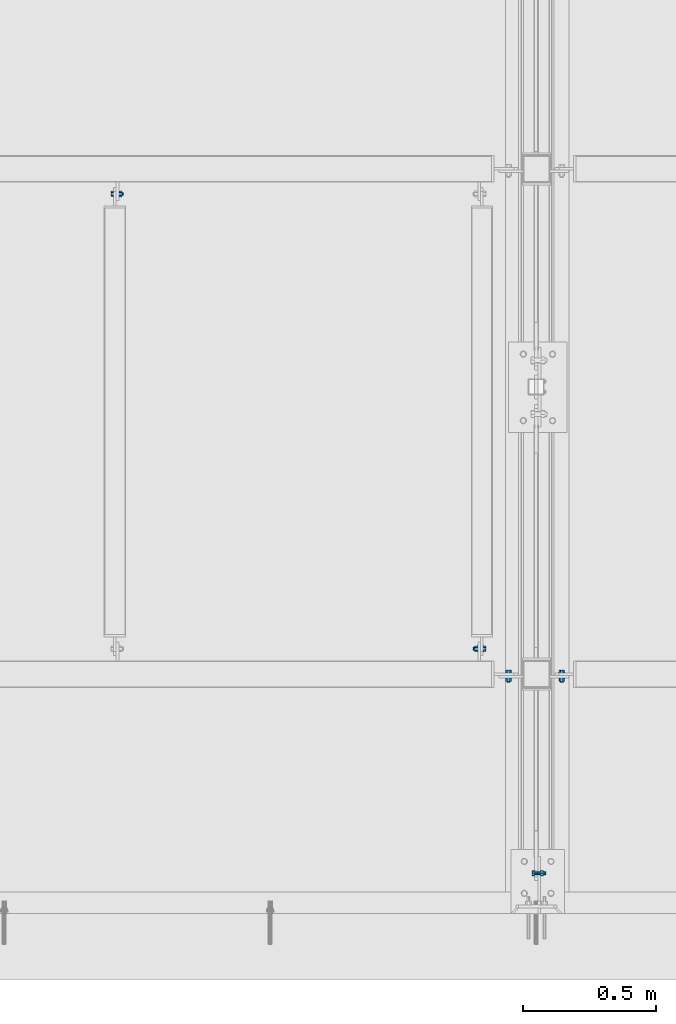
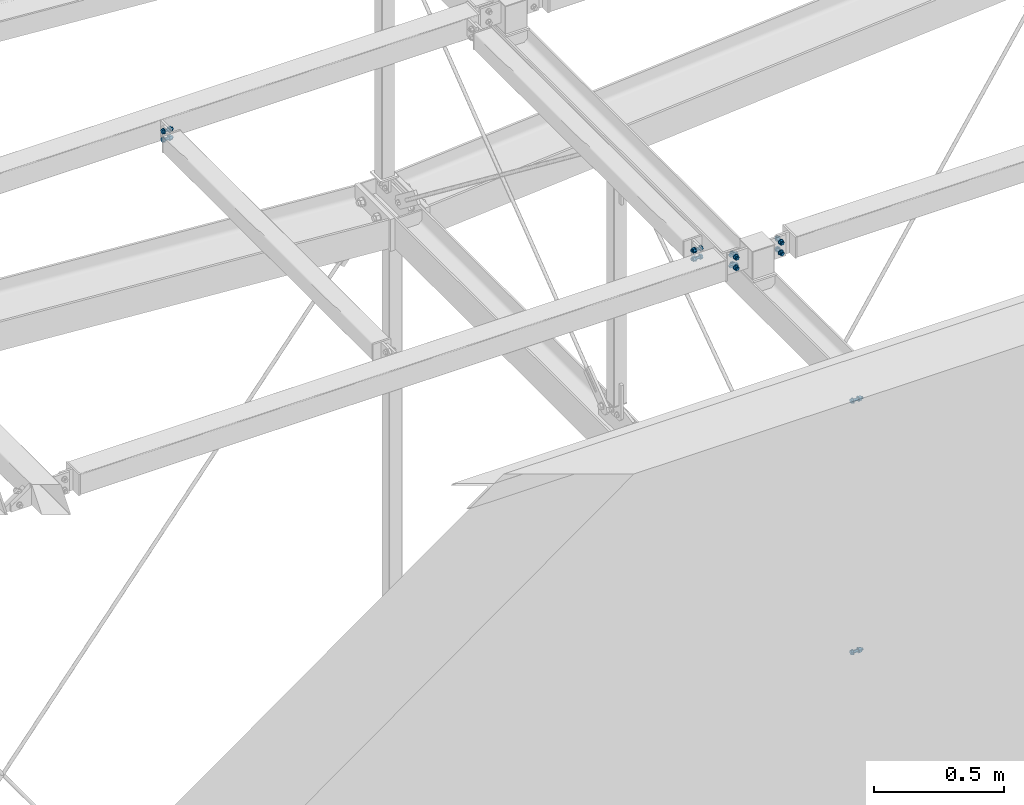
# One storey, part 238 of 271: 6 mechanical fasteners, 6 elements without a shape of their own.
"""IFC2X3 building model written with IfcOpenShell, lengths in millimetres."""

from ifc_helpers import new_model, si_unit, frame, frame_2d, origin_with_axes, origin_2d_with_axis, place, context, subcontext, project, spatial, polyline, circle_curve, parameter, trimmed, segment, composite_curve, circle, outline, extrude, source, transform, mapped, material, type_object, element, aggregate, save


model = new_model("IFC2X3")

# Units and contexts
model_context = context("Model", 3, precision=1e-05, world=origin_with_axes())
body_context = subcontext(model_context, "Body", "Model", "MODEL_VIEW")
ifc_project = project(units=[si_unit("LENGTHUNIT", "METRE", prefix="MILLI"), si_unit("AREAUNIT", "SQUARE_METRE"), si_unit("VOLUMEUNIT", "CUBIC_METRE"), si_unit("MASSUNIT", "GRAM", prefix="KILO"), si_unit("TIMEUNIT", "SECOND"), si_unit("PLANEANGLEUNIT", "RADIAN"), si_unit("SOLIDANGLEUNIT", "STERADIAN"), si_unit("THERMODYNAMICTEMPERATUREUNIT", "DEGREE_CELSIUS"), si_unit("LUMINOUSINTENSITYUNIT", "LUMEN")], contexts=[model_context])

# Site, building, storey
site_placement = place(None, origin_with_axes())
site = spatial("IfcSite", under=ifc_project, at=site_placement, Name="Undefined", CompositionType="ELEMENT")
building_placement = place(site_placement, origin_with_axes())
building = spatial("IfcBuilding", under=site, at=building_placement, Name="Undefined", CompositionType="ELEMENT")
storey_placement = place(building_placement, origin_with_axes())
storey = spatial("IfcBuildingStorey", under=building, at=storey_placement, Name="Undefined", CompositionType="ELEMENT", Elevation=0.0)

# Assembly, mechanical fastener
assembly_1_placement = place(storey_placement, origin_with_axes())
assembly_1 = element("IfcElementAssembly", 1, at=assembly_1_placement, inside=storey, AssemblyPlace="NOTDEFINED", PredefinedType="RIGID_FRAME")
ifc_material = material(Name="Undefined")
mechanical_fastener_type = type_object("IfcMechanicalFastenerType", Name="Bolt assembly")
shared_shape_1 = source(origin_with_axes(), body_context, "Body", "SweptSolid", [
    extrude(circle(Radius=6.5, at=origin_2d_with_axis()), frame((0.0, -5.1, 0.0), z_axis=(0.0, 1.0, 0.0), x_axis=(1.0, 0.0, 0.0)), (0.0, 0.0, 1.0), 10.1),
    extrude(circle(Radius=6.5, at=origin_2d_with_axis()), frame((0.0, -16.9, 0.0), z_axis=(0.0, 1.0, 0.0), x_axis=(1.0, 0.0, 0.0)), (0.0, 0.0, 1.0), 12.0),
    extrude(outline(polyline([(10.39230484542, 0.0), (5.19615242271, 9.00000000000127), (-5.19615242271, 9.00000000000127), (-10.39230484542, 0.0), (-5.19615242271, -9.00000000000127), (5.19615242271, -9.00000000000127), (10.39230484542, 0.0)])), frame((0.0, -27.0, 0.0), z_axis=(0.0, 1.0, 0.0), x_axis=(1.0, 0.0, 0.0)), (0.0, 0.0, 1.0), 7.5),
    extrude(circle(Radius=6.0, at=origin_2d_with_axis()), frame((0.0, -19.5, 0.0), z_axis=(0.0, 1.0, 0.0), x_axis=(1.0, 0.0, 0.0)), (0.0, 0.0, 1.0), 45.0),
    extrude(circle(Radius=12.0, at=origin_2d_with_axis()), frame((0.0, -19.5, 0.0), z_axis=(0.0, 1.0, 0.0), x_axis=(1.0, 0.0, 0.0)), (0.0, 0.0, 1.0), 2.5),
    extrude(circle(Radius=12.0, at=origin_2d_with_axis()), frame((0.0, 5.00000000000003, 0.0), z_axis=(0.0, 1.0, 0.0), x_axis=(1.0, 0.0, 0.0)), (0.0, 0.0, 1.0), 2.5),
    extrude(outline(polyline([(10.96965511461, 0.0), (5.484827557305, 9.50000000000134), (-5.484827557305, 9.50000000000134), (-10.96965511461, 0.0), (-5.484827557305, -9.50000000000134), (5.484827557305, -9.50000000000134), (10.96965511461, 0.0)])), frame((0.0, 7.50000000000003, 0.0), z_axis=(0.0, 1.0, 0.0), x_axis=(1.0, 0.0, 0.0)), (0.0, 0.0, 1.0), 10.0),
])
mechanical_fastener_1_placement = place(assembly_1_placement, frame((6358.37568736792, 150.779592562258, 18734.3586910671), z_axis=(0.0, 0.570474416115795, -0.821315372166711), x_axis=(0.0, 0.821315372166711, 0.570474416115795)))
mechanical_fastener_1 = element("IfcMechanicalFastener", 2, at=mechanical_fastener_1_placement, type_object=mechanical_fastener_type, material=ifc_material, Name="Bolt assembly", NominalDiameter=12.0, NominalLength=45.0, context=body_context, shape_type="MappedRepresentation", body=[
    mapped(shared_shape_1, transform((0.0, 0.0, 0.0))),
])
aggregate(assembly_1, [mechanical_fastener_1])

assembly_2_placement = place(storey_placement, origin_with_axes())
assembly_2 = element("IfcElementAssembly", 3, at=assembly_2_placement, inside=storey, AssemblyPlace="NOTDEFINED", PredefinedType="RIGID_FRAME")
mechanical_fastener_2_placement = place(assembly_2_placement, frame((6358.37568736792, 150.419669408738, 19914.5913071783), z_axis=(0.0, -0.570474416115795, -0.821315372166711), x_axis=(0.0, 0.821315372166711, -0.570474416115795)))
mechanical_fastener_2 = element("IfcMechanicalFastener", 4, at=mechanical_fastener_2_placement, type_object=mechanical_fastener_type, material=ifc_material, Name="Bolt assembly", NominalDiameter=12.0, NominalLength=45.0, context=body_context, shape_type="MappedRepresentation", body=[
    mapped(shared_shape_1, transform((0.0, 0.0, 0.0))),
])
aggregate(assembly_2, [mechanical_fastener_2])

assembly_3_placement = place(storey_placement, origin_with_axes())
assembly_3 = element("IfcElementAssembly", 5, at=assembly_3_placement, inside=storey, AssemblyPlace="NOTDEFINED", PredefinedType="RIGID_FRAME")
shared_shape_2 = source(origin_with_axes(), body_context, "Body", "SweptSolid", [
    extrude(circle(Radius=6.5, at=origin_2d_with_axis()), frame((0.0, -5.1, 0.0), z_axis=(0.0, 1.0, 0.0), x_axis=(1.0, 0.0, 0.0)), (0.0, 0.0, 1.0), 10.1),
    extrude(circle(Radius=6.5, at=origin_2d_with_axis()), frame((0.0, -14.9000000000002, 0.0), z_axis=(0.0, 1.0, 0.0), x_axis=(1.0, 0.0, 0.0)), (0.0, 0.0, 1.0), 10.0),
    extrude(outline(polyline([(10.39230484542, 0.0), (5.19615242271, 9.00000000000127), (-5.19615242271, 9.00000000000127), (-10.39230484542, 0.0), (-5.19615242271, -9.00000000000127), (5.19615242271, -9.00000000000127), (10.39230484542, 0.0)])), frame((0.0, -25.0000000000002, 0.0), z_axis=(0.0, 1.0, 0.0), x_axis=(1.0, 0.0, 0.0)), (0.0, 0.0, 1.0), 7.5),
    extrude(circle(Radius=6.0, at=origin_2d_with_axis()), frame((0.0, -17.5000000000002, 0.0), z_axis=(0.0, 1.0, 0.0), x_axis=(1.0, 0.0, 0.0)), (0.0, 0.0, 1.0), 40.0),
    extrude(circle(Radius=12.0, at=origin_2d_with_axis()), frame((0.0, -17.5000000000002, 0.0), z_axis=(0.0, 1.0, 0.0), x_axis=(1.0, 0.0, 0.0)), (0.0, 0.0, 1.0), 2.5),
    extrude(circle(Radius=12.0, at=origin_2d_with_axis()), frame((0.0, 5.00000000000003, 0.0), z_axis=(0.0, 1.0, 0.0), x_axis=(1.0, 0.0, 0.0)), (0.0, 0.0, 1.0), 2.5),
    extrude(outline(polyline([(10.96965511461, 0.0), (5.484827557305, 9.50000000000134), (-5.484827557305, 9.50000000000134), (-10.96965511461, 0.0), (-5.484827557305, -9.50000000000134), (5.484827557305, -9.50000000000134), (10.96965511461, 0.0)])), frame((0.0, 7.50000000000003, 0.0), z_axis=(0.0, 1.0, 0.0), x_axis=(1.0, 0.0, 0.0)), (0.0, 0.0, 1.0), 10.0),
])
mechanical_fastener_3_placement = place(assembly_3_placement, frame((6133.37568709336, 994.32498425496, 20164.3499999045), z_axis=(0.0, 0.0, 1.0), x_axis=(0.0, 1.0, 0.0)))
mechanical_fastener_3 = element("IfcMechanicalFastener", 6, at=mechanical_fastener_3_placement, type_object=mechanical_fastener_type, material=ifc_material, Name="Bolt assembly", NominalDiameter=12.0, NominalLength=40.0, context=body_context, shape_type="MappedRepresentation", body=[
    mapped(shared_shape_2, transform((0.0, 0.0, -20.0))),
    mapped(shared_shape_2, transform((0.0, 0.0, 20.0))),
])
aggregate(assembly_3, [mechanical_fastener_3])

assembly_4_placement = place(storey_placement, origin_with_axes())
assembly_4 = element("IfcElementAssembly", 7, at=assembly_4_placement, inside=storey, AssemblyPlace="NOTDEFINED", PredefinedType="RIGID_FRAME")
mechanical_fastener_4_placement = place(assembly_4_placement, frame((4773.37568709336, 2704.32498425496, 20164.3499999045), z_axis=(0.0, 0.0, 1.0), x_axis=(0.0, -1.0, 0.0)))
mechanical_fastener_4 = element("IfcMechanicalFastener", 8, at=mechanical_fastener_4_placement, type_object=mechanical_fastener_type, material=ifc_material, Name="Bolt assembly", NominalDiameter=12.0, NominalLength=40.0, context=body_context, shape_type="MappedRepresentation", body=[
    mapped(shared_shape_2, transform((0.0, 0.0, -20.0))),
    mapped(shared_shape_2, transform((0.0, 0.0, 20.0))),
])
aggregate(assembly_4, [mechanical_fastener_4])

assembly_5_placement = place(storey_placement, origin_with_axes())
assembly_5 = element("IfcElementAssembly", 9, at=assembly_5_placement, inside=storey, AssemblyPlace="NOTDEFINED", PredefinedType="RIGID_FRAME")
mechanical_fastener_5_placement = place(assembly_5_placement, frame((6443.37568736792, 889.32498425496, 20154.3499999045), z_axis=(0.0, 0.0, -1.0), x_axis=(1.0, 0.0, 0.0)))
mechanical_fastener_5 = element("IfcMechanicalFastener", 10, at=mechanical_fastener_5_placement, type_object=mechanical_fastener_type, material=ifc_material, Name="Bolt assembly", NominalDiameter=12.0, NominalLength=40.0, context=body_context, shape_type="MappedRepresentation", body=[
    mapped(shared_shape_2, transform((0.0, 0.0, -25.0))),
    mapped(shared_shape_2, transform((0.0, 0.0, 25.0))),
])
aggregate(assembly_5, [mechanical_fastener_5])

assembly_6_placement = place(storey_placement, origin_with_axes())
assembly_6 = element("IfcElementAssembly", 11, at=assembly_6_placement, inside=storey, AssemblyPlace="NOTDEFINED", PredefinedType="RIGID_FRAME")
shared_shape_3 = source(origin_with_axes(), body_context, "Body", "SweptSolid", [
    extrude(circle(Radius=6.5, at=origin_2d_with_axis()), frame((0.0, -5.1, 0.0), z_axis=(0.0, 1.0, 0.0), x_axis=(1.0, 0.0, 0.0)), (0.0, 0.0, 1.0), 10.1),
    extrude(outline(composite_curve([segment(polyline([(-13.5, 6.5), (13.5, 6.5)]), True, "CONTINUOUS"), segment(trimmed(circle_curve(frame_2d((13.5, 0.0), x_axis=(0.0, 1.0)), 6.5), [parameter(0.0)], [parameter(3.14159265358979)], False, "PARAMETER"), True, "CONTINUOUS"), segment(polyline([(13.5, -6.5), (-13.5, -6.5)]), True, "CONTINUOUS"), segment(trimmed(circle_curve(frame_2d((-13.5, 0.0), x_axis=(0.0, -1.0)), 6.5), [parameter(0.0)], [parameter(3.14159265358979)], False, "PARAMETER"), True, "DISCONTINUOUS")], self_intersect=False)), frame((0.0, -14.9000000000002, 0.0), z_axis=(0.0, 1.0, 0.0), x_axis=(1.0, 0.0, 0.0)), (0.0, 0.0, 1.0), 10.0),
    extrude(outline(polyline([(10.39230484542, 0.0), (5.19615242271, 9.00000000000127), (-5.19615242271, 9.00000000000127), (-10.39230484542, 0.0), (-5.19615242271, -9.00000000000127), (5.19615242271, -9.00000000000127), (10.39230484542, 0.0)])), frame((0.0, -25.0000000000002, 0.0), z_axis=(0.0, 1.0, 0.0), x_axis=(1.0, 0.0, 0.0)), (0.0, 0.0, 1.0), 7.5),
    extrude(circle(Radius=6.0, at=origin_2d_with_axis()), frame((0.0, -17.5000000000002, 0.0), z_axis=(0.0, 1.0, 0.0), x_axis=(1.0, 0.0, 0.0)), (0.0, 0.0, 1.0), 40.0),
    extrude(circle(Radius=12.0, at=origin_2d_with_axis()), frame((0.0, -17.5000000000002, 0.0), z_axis=(0.0, 1.0, 0.0), x_axis=(1.0, 0.0, 0.0)), (0.0, 0.0, 1.0), 2.5),
    extrude(circle(Radius=12.0, at=origin_2d_with_axis()), frame((0.0, 5.00000000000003, 0.0), z_axis=(0.0, 1.0, 0.0), x_axis=(1.0, 0.0, 0.0)), (0.0, 0.0, 1.0), 2.5),
    extrude(outline(polyline([(10.96965511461, 0.0), (5.484827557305, 9.50000000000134), (-5.484827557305, 9.50000000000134), (-10.96965511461, 0.0), (-5.484827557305, -9.50000000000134), (5.484827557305, -9.50000000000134), (10.96965511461, 0.0)])), frame((0.0, 7.50000000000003, 0.0), z_axis=(0.0, 1.0, 0.0), x_axis=(1.0, 0.0, 0.0)), (0.0, 0.0, 1.0), 10.0),
])
mechanical_fastener_6_placement = place(assembly_6_placement, frame((6243.37568736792, 889.32498425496, 20154.3499999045), z_axis=(0.0, 0.0, 1.0), x_axis=(-1.0, 0.0, 1.38777878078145e-17)))
mechanical_fastener_6 = element("IfcMechanicalFastener", 12, at=mechanical_fastener_6_placement, type_object=mechanical_fastener_type, material=ifc_material, Name="Bolt assembly", NominalDiameter=12.0, NominalLength=40.0, context=body_context, shape_type="MappedRepresentation", body=[
    mapped(shared_shape_3, transform((0.0, 0.0, -25.0))),
    mapped(shared_shape_3, transform((0.0, 0.0, 25.0))),
])
aggregate(assembly_6, [mechanical_fastener_6])

save(model, "model.ifc")
